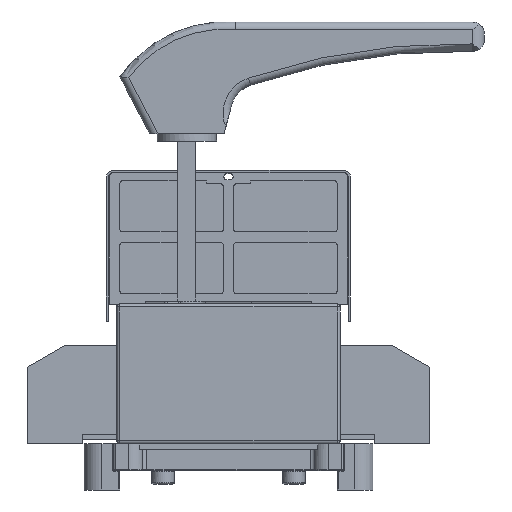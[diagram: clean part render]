
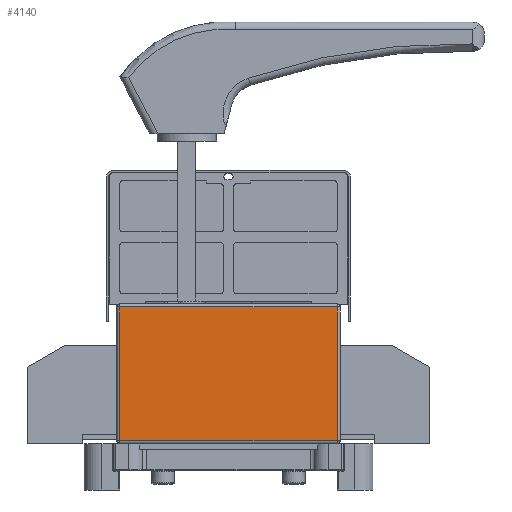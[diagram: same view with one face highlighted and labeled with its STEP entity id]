
A CAD part, left-side view. The second image highlights one B-rep face of the part: STEP entity #4140.
In plain terms, the highlighted planar face has unit normal (-1, 0, 0).
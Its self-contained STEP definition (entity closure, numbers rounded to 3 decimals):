
#4140=ADVANCED_FACE('',(#6759),#5212,.F.);
#5212=PLANE('',#34579);
#6759=FACE_OUTER_BOUND('',#8730,.T.);
#8730=EDGE_LOOP('',(#16771,#16772,#16773,#16774));
#16771=ORIENTED_EDGE('',*,*,#25318,.T.);
#16772=ORIENTED_EDGE('',*,*,#25300,.T.);
#16773=ORIENTED_EDGE('',*,*,#25311,.T.);
#16774=ORIENTED_EDGE('',*,*,#25289,.T.);
#20897=VERTEX_POINT('',#55777);
#20901=VERTEX_POINT('',#55788);
#20906=VERTEX_POINT('',#55805);
#20907=VERTEX_POINT('',#55809);
#25289=EDGE_CURVE('',#20901,#20897,#28527,.T.);
#25300=EDGE_CURVE('',#20907,#20906,#28532,.T.);
#25311=EDGE_CURVE('',#20906,#20901,#28535,.T.);
#25318=EDGE_CURVE('',#20897,#20907,#28542,.T.);
#28527=LINE('',#55791,#31707);
#28532=LINE('',#55812,#31712);
#28535=LINE('',#55835,#31715);
#28542=LINE('',#55845,#31722);
#31707=VECTOR('',#43143,1.);
#31712=VECTOR('',#43168,1.);
#31715=VECTOR('',#43197,1.);
#31722=VECTOR('',#43210,1.);
#34579=AXIS2_PLACEMENT_3D('',#55848,#43215,#43216);
#43143=DIRECTION('',(0.,1.,0.));
#43168=DIRECTION('',(0.,-1.,0.));
#43197=DIRECTION('',(0.,0.,1.));
#43210=DIRECTION('',(0.,0.,-1.));
#43215=DIRECTION('',(1.,0.,0.));
#43216=DIRECTION('',(0.,1.,0.));
#55777=CARTESIAN_POINT('',(-150.,73.,92.));
#55788=CARTESIAN_POINT('',(-150.,-73.,92.));
#55791=CARTESIAN_POINT('',(-150.,73.,92.));
#55805=CARTESIAN_POINT('',(-150.,-73.,2.));
#55809=CARTESIAN_POINT('',(-150.,73.,2.));
#55812=CARTESIAN_POINT('',(-150.,75.,2.));
#55835=CARTESIAN_POINT('',(-150.,-73.,94.));
#55845=CARTESIAN_POINT('',(-150.,73.,94.));
#55848=CARTESIAN_POINT('',(-150.,75.,94.));
